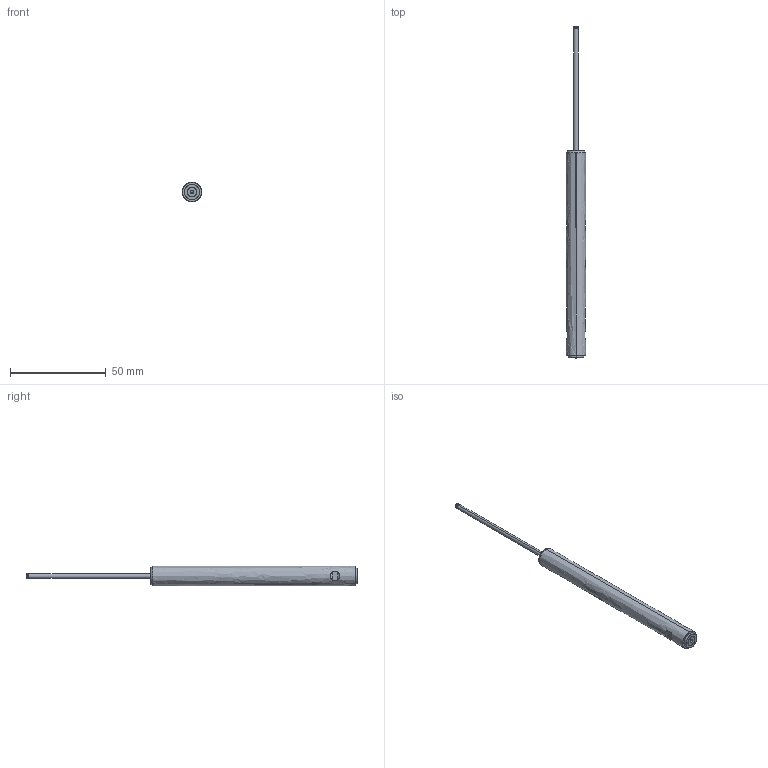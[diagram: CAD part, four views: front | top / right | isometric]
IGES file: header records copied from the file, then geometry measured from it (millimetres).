
Start section: SolidWorks IGES file using analytic representation for surfaces
Bounding box: 10 x 173 x 10 mm (x, y, z)
Surface area: 4340.8 mm2 (no closed solid volume)
Topology: 0 solids, 0 shells, 69 faces, 858 edges, 856 vertices
Faces by surface type: bspline 42, revolution 27
